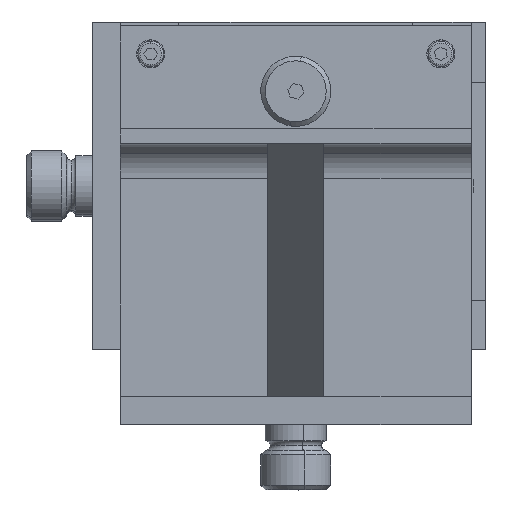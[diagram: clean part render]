
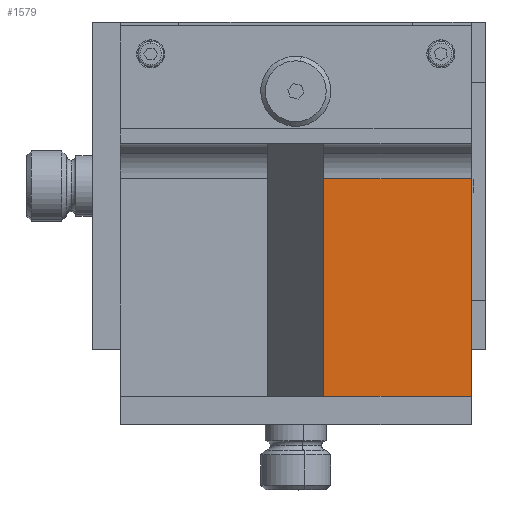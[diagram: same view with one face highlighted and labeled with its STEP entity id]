
A CAD part, top view. The second image highlights one B-rep face of the part: STEP entity #1579.
In plain terms, the highlighted planar face has unit normal (0, 0, 1).
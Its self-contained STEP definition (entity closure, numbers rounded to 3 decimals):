
#1579=ADVANCED_FACE('',(#3144),#3145,.F.);
#3144=FACE_OUTER_BOUND('',#4764,.T.);
#3145=PLANE('',#4765);
#4764=EDGE_LOOP('',(#8597,#8598,#8599,#8600));
#4765=AXIS2_PLACEMENT_3D('',#8601,#8602,#8603);
#8597=ORIENTED_EDGE('',*,*,#10388,.T.);
#8598=ORIENTED_EDGE('',*,*,#10399,.F.);
#8599=ORIENTED_EDGE('',*,*,#10400,.T.);
#8600=ORIENTED_EDGE('',*,*,#10354,.F.);
#8601=CARTESIAN_POINT('',(0.004,-80.004,36.));
#8602=DIRECTION('',(0.,0.,-1.0));
#8603=DIRECTION('',(-1.0,0.0,0.));
#10354=EDGE_CURVE('',#12560,#12562,#12563,.T.);
#10388=EDGE_CURVE('',#12560,#12608,#12615,.T.);
#10399=EDGE_CURVE('',#12629,#12608,#12630,.T.);
#10400=EDGE_CURVE('',#12629,#12562,#12631,.T.);
#12560=VERTEX_POINT('',#16164);
#12562=VERTEX_POINT('',#16166);
#12563=LINE('',#16167,#16168);
#12608=VERTEX_POINT('',#16223);
#12615=LINE('',#16234,#16235);
#12629=VERTEX_POINT('',#16255);
#12630=LINE('',#16256,#16257);
#12631=LINE('',#16258,#16259);
#16164=CARTESIAN_POINT('',(43.504,-33.504,36.));
#16166=CARTESIAN_POINT('',(75.004,-33.504,36.));
#16167=CARTESIAN_POINT('',(37.504,-33.504,36.));
#16168=VECTOR('',#18191,1000.0);
#16223=CARTESIAN_POINT('',(43.504,-80.004,36.));
#16234=CARTESIAN_POINT('',(43.504,-62.376,36.));
#16235=VECTOR('',#18239,25.4);
#16255=CARTESIAN_POINT('',(75.004,-80.004,36.));
#16256=CARTESIAN_POINT('',(0.004,-80.004,36.));
#16257=VECTOR('',#18246,1000.0);
#16258=CARTESIAN_POINT('',(75.004,-80.004,36.));
#16259=VECTOR('',#18247,1000.0);
#18191=DIRECTION('',(1.0,0.,0.));
#18239=DIRECTION('',(0.,-1.0,0.));
#18246=DIRECTION('',(-1.0,0.,0.));
#18247=DIRECTION('',(0.,1.0,0.));
